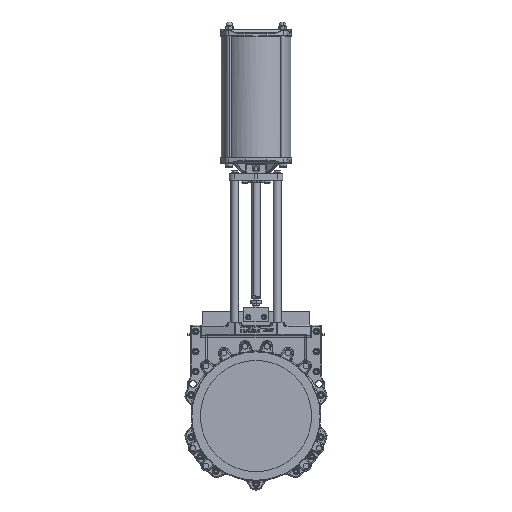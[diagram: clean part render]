
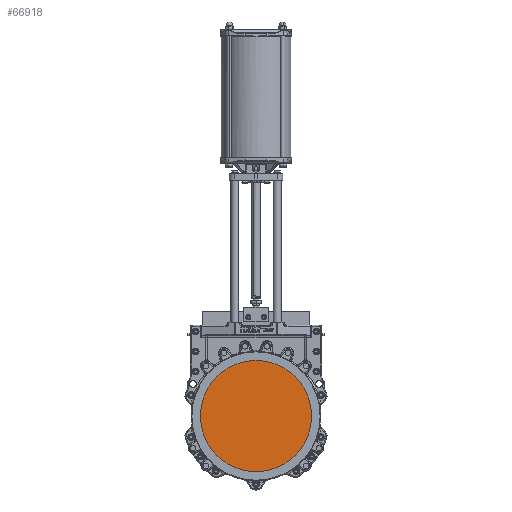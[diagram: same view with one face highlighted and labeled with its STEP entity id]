
A CAD part, top view. The second image highlights one B-rep face of the part: STEP entity #66918.
In plain terms, the highlighted planar face has unit normal (0, 0, 1).
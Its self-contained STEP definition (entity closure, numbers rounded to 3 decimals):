
#17344 = DIRECTION ( 'NONE',  ( 0., 0., -1. ) ) ;
#27584 = EDGE_LOOP ( 'NONE', ( #113000, #109573 ) ) ;
#30669 = CARTESIAN_POINT ( 'NONE',  ( 0., 108., -0.25 ) ) ;
#39564 = EDGE_CURVE ( 'NONE', #85212, #226798, #41447, .T. ) ;
#41447 = CIRCLE ( 'NONE', #140634, 250. ) ;
#44109 = CARTESIAN_POINT ( 'NONE',  ( -250., 0., -0.25 ) ) ;
#47068 = PLANE ( 'NONE',  #161804 ) ;
#48597 = DIRECTION ( 'NONE',  ( -1., 0., 0. ) ) ;
#51920 = DIRECTION ( 'NONE',  ( 0., 0., -1. ) ) ;
#62602 = EDGE_CURVE ( 'NONE', #226798, #85212, #197642, .T. ) ;
#66918 = ADVANCED_FACE ( 'NONE', ( #135762 ), #47068, .F. ) ;
#76550 = AXIS2_PLACEMENT_3D ( 'NONE', #159008, #51920, #177088 ) ;
#85212 = VERTEX_POINT ( 'NONE', #203871 ) ;
#109573 = ORIENTED_EDGE ( 'NONE', *, *, #62602, .F. ) ;
#113000 = ORIENTED_EDGE ( 'NONE', *, *, #39564, .F. ) ;
#124387 = CARTESIAN_POINT ( 'NONE',  ( 0., 0., -0.25 ) ) ;
#135762 = FACE_OUTER_BOUND ( 'NONE', #27584, .T. ) ;
#140634 = AXIS2_PLACEMENT_3D ( 'NONE', #124387, #17344, #142353 ) ;
#142353 = DIRECTION ( 'NONE',  ( -1., 0., 0. ) ) ;
#155697 = DIRECTION ( 'NONE',  ( 0., 0., -1. ) ) ;
#159008 = CARTESIAN_POINT ( 'NONE',  ( 0., 0., -0.25 ) ) ;
#161804 = AXIS2_PLACEMENT_3D ( 'NONE', #30669, #155697, #48597 ) ;
#177088 = DIRECTION ( 'NONE',  ( -1., 0., 0. ) ) ;
#197642 = CIRCLE ( 'NONE', #76550, 250. ) ;
#203871 = CARTESIAN_POINT ( 'NONE',  ( 250., 0., -0.25 ) ) ;
#226798 = VERTEX_POINT ( 'NONE', #44109 ) ;
